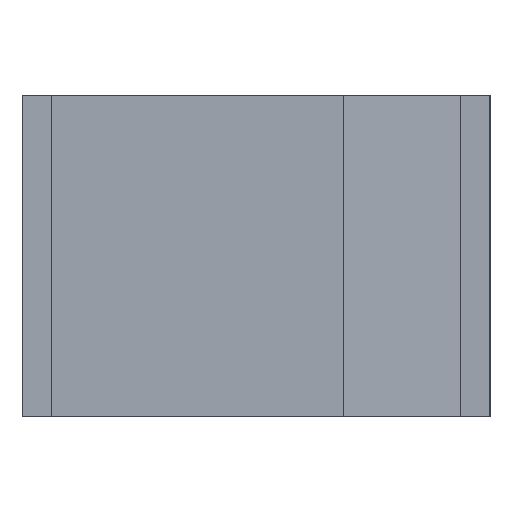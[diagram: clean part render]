
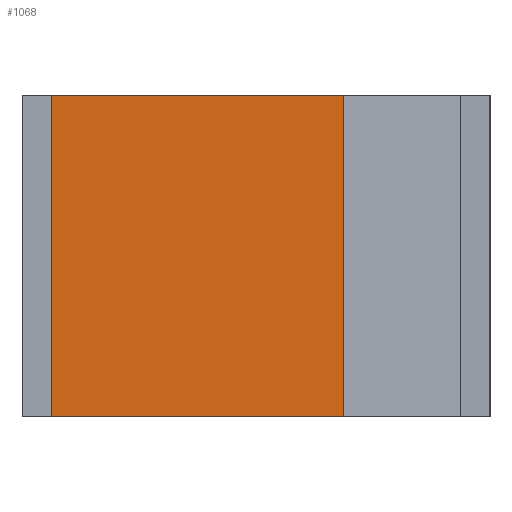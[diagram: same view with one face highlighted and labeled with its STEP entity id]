
A CAD part, left-side view. The second image highlights one B-rep face of the part: STEP entity #1068.
In plain terms, the highlighted planar face has unit normal (-1, 0, 0).
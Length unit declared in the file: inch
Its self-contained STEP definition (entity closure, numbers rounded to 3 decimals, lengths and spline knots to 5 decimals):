
#1 = VECTOR ( 'NONE', #141, 39.37008 ) ;
#15 = LINE ( 'NONE', #99, #54 ) ;
#19 = LINE ( 'NONE', #140, #1 ) ;
#54 = VECTOR ( 'NONE', #77, 39.37008 ) ;
#77 = DIRECTION ( 'NONE',  ( 0., 0., -1. ) ) ;
#99 = CARTESIAN_POINT ( 'NONE',  ( 0., -0.626, 0.687 ) ) ;
#140 = CARTESIAN_POINT ( 'NONE',  ( 0., 0., 0.687 ) ) ;
#141 = DIRECTION ( 'NONE',  ( 0., 0., -1. ) ) ;
#148 = CARTESIAN_POINT ( 'NONE',  ( 0., 0., 0.687 ) ) ;
#177 = CARTESIAN_POINT ( 'NONE',  ( 0., -0.626, 0.687 ) ) ;
#340 = VECTOR ( 'NONE', #420, 39.37008 ) ;
#370 = LINE ( 'NONE', #1434, #340 ) ;
#420 = DIRECTION ( 'NONE',  ( 0., -1., 0. ) ) ;
#438 = ORIENTED_EDGE ( 'NONE', *, *, #1226, .T. ) ;
#440 = ORIENTED_EDGE ( 'NONE', *, *, #750, .F. ) ;
#456 = ORIENTED_EDGE ( 'NONE', *, *, #1203, .T. ) ;
#458 = ORIENTED_EDGE ( 'NONE', *, *, #1231, .F. ) ;
#481 = CARTESIAN_POINT ( 'NONE',  ( 0., -0.626, 0.687 ) ) ;
#485 = DIRECTION ( 'NONE',  ( 1., 0., 0. ) ) ;
#516 = DIRECTION ( 'NONE',  ( 0., 0., -1. ) ) ;
#518 = PLANE ( 'NONE',  #1020 ) ;
#557 = FACE_OUTER_BOUND ( 'NONE', #892, .T. ) ;
#577 = LINE ( 'NONE', #660, #579 ) ;
#579 = VECTOR ( 'NONE', #661, 39.37008 ) ;
#660 = CARTESIAN_POINT ( 'NONE',  ( 0., -0.626, 0. ) ) ;
#661 = DIRECTION ( 'NONE',  ( 0., -1., 0. ) ) ;
#750 = EDGE_CURVE ( 'NONE', #1276, #1267, #370, .T. ) ;
#892 = EDGE_LOOP ( 'NONE', ( #456, #458, #440, #438 ) ) ;
#970 = VERTEX_POINT ( 'NONE', #1303 ) ;
#977 = VERTEX_POINT ( 'NONE', #1305 ) ;
#1020 = AXIS2_PLACEMENT_3D ( 'NONE', #481, #485, #516 ) ;
#1068 = ADVANCED_FACE ( 'NONE', ( #557 ), #518, .F. ) ;
#1203 = EDGE_CURVE ( 'NONE', #977, #970, #577, .T. ) ;
#1226 = EDGE_CURVE ( 'NONE', #1276, #977, #19, .T. ) ;
#1231 = EDGE_CURVE ( 'NONE', #1267, #970, #15, .T. ) ;
#1267 = VERTEX_POINT ( 'NONE', #177 ) ;
#1276 = VERTEX_POINT ( 'NONE', #148 ) ;
#1303 = CARTESIAN_POINT ( 'NONE',  ( 0., -0.626, 0. ) ) ;
#1305 = CARTESIAN_POINT ( 'NONE',  ( 0., 0., 0. ) ) ;
#1434 = CARTESIAN_POINT ( 'NONE',  ( 0., -0.626, 0.687 ) ) ;
